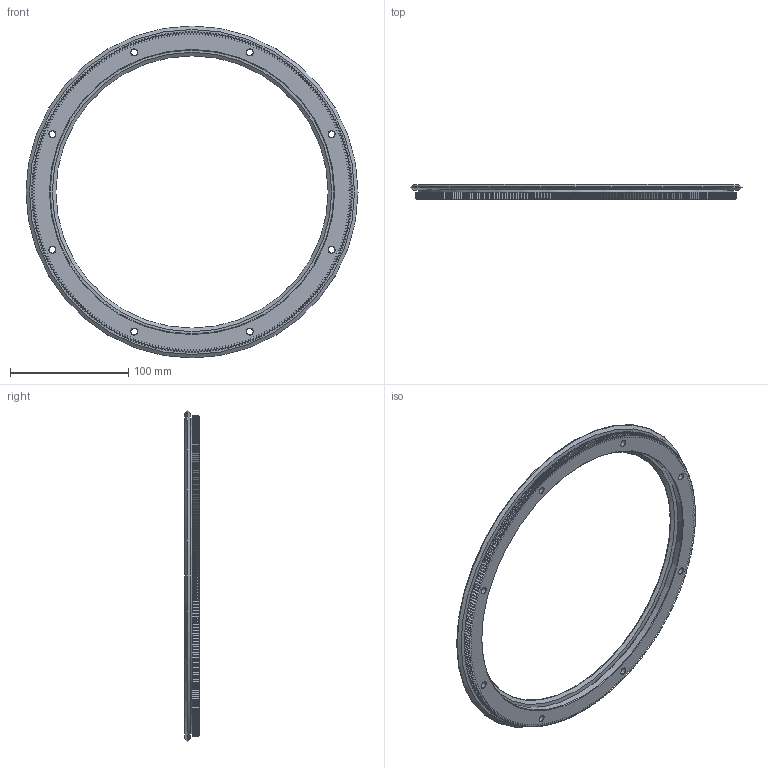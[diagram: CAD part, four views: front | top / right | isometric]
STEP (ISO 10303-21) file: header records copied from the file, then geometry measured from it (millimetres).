
FILE_DESCRIPTION( ( 'STEP AP203' ), '1' );
FILE_NAME( 'p:/temp/worker_47/temp/exporttempdir_7100_417_Vdu1V/format_0/R25 255 R360 P.stp', '2021-08-30T04:13:02', ( 'License CC BY-ND 4.0' ), ( 'CADENAS' ), ' ', 'PARTsolutions', ' ' );
FILE_SCHEMA( ( 'CONFIG_CONTROL_DESIGN' ) );
Length unit declared in the file: millimetre
Products named in the file (1): _R25 255 R360 P
Bounding box: 280.19 x 12.25 x 280.19 mm (x, y, z)
Volume: 161793.9 mm3; surface area: 68405.1 mm2
Topology: 1 solids, 1 shells, 2063 faces, 5465 edges, 3415 vertices
Faces by surface type: plane 1357, cylinder 355, cone 349, torus 2
Full cylindrical faces by diameter (mm): 5.5 x8, 9 x8, 239.6 x1, 244 x1, 266.4 x1
Entity records: 63930 total; most frequent: CARTESIAN_POINT 12925, ORIENTED_EDGE 10860, DIRECTION 10620, EDGE_CURVE 5430, AXIS2_PLACEMENT_3D 3798, VERTEX_POINT 3415, LINE 3024, VECTOR 3024
